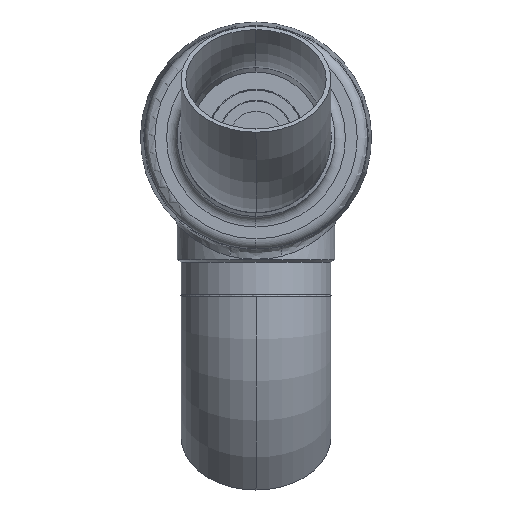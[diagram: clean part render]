
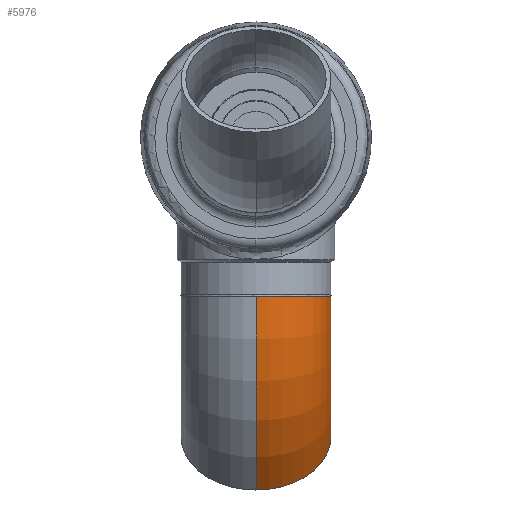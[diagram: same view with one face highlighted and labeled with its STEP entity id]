
A CAD part, front view. The second image highlights one B-rep face of the part: STEP entity #5976.
In plain terms, the highlighted toroidal (fillet/blend) face has major radius 152 mm and minor radius 57.15 mm.
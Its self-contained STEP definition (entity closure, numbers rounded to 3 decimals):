
#2989 = EDGE_CURVE ( 'NONE', #5506, #12347, #4361, .T. ) ;
#3345 = ORIENTED_EDGE ( 'NONE', *, *, #2989, .T. ) ;
#3852 = ORIENTED_EDGE ( 'NONE', *, *, #12296, .T. ) ;
#4357 = EDGE_CURVE ( 'NONE', #13622, #5217, #11543, .T. ) ;
#4361 = CIRCLE ( 'NONE', #4362, 57.15 ) ;
#4362 = AXIS2_PLACEMENT_3D ( 'NONE', #4363, #4364, #4365 ) ;
#4363 = CARTESIAN_POINT ( 'NONE',  ( 0., 0., 0. ) ) ;
#4364 = DIRECTION ( 'NONE',  ( 1., 0., 0. ) ) ;
#4365 = DIRECTION ( 'NONE',  ( 0., 0., -1. ) ) ;
#4420 = CIRCLE ( 'NONE', #4421, 94.85 ) ;
#4421 = AXIS2_PLACEMENT_3D ( 'NONE', #4422, #4423, #4424 ) ;
#4422 = CARTESIAN_POINT ( 'NONE',  ( 0., -152., 0. ) ) ;
#4423 = DIRECTION ( 'NONE',  ( 0., 0., 1. ) ) ;
#4424 = DIRECTION ( 'NONE',  ( 1., 0., 0. ) ) ;
#4463 = CARTESIAN_POINT ( 'NONE',  ( 0., 57.15, 0. ) ) ;
#4725 = ORIENTED_EDGE ( 'NONE', *, *, #4357, .F. ) ;
#5217 = VERTEX_POINT ( 'NONE', #12733 ) ;
#5237 = ORIENTED_EDGE ( 'NONE', *, *, #12401, .F. ) ;
#5506 = VERTEX_POINT ( 'NONE', #15985 ) ;
#5740 = EDGE_LOOP ( 'NONE', ( #5237, #4725, #3852, #3345 ) ) ;
#5976 = ADVANCED_FACE ( 'NONE', ( #16272 ), #16273, .T. ) ;
#6044 = CIRCLE ( 'NONE', #6045, 209.15 ) ;
#6045 = AXIS2_PLACEMENT_3D ( 'NONE', #6046, #6048, #6049 ) ;
#6046 = CARTESIAN_POINT ( 'NONE',  ( 0., -152., 0. ) ) ;
#6048 = DIRECTION ( 'NONE',  ( 0., 0., 1. ) ) ;
#6049 = DIRECTION ( 'NONE',  ( 1., 0., 0. ) ) ;
#11543 = CIRCLE ( 'NONE', #11544, 57.15 ) ;
#11544 = AXIS2_PLACEMENT_3D ( 'NONE', #11545, #11546, #11547 ) ;
#11545 = CARTESIAN_POINT ( 'NONE',  ( 107.48, -44.52, 0. ) ) ;
#11546 = DIRECTION ( 'NONE',  ( 0.707, -0.707, 0. ) ) ;
#11547 = DIRECTION ( 'NONE',  ( 0., 0., -1. ) ) ;
#11560 = CARTESIAN_POINT ( 'NONE',  ( 67.069, -84.931, 0. ) ) ;
#12296 = EDGE_CURVE ( 'NONE', #13622, #5506, #4420, .T. ) ;
#12347 = VERTEX_POINT ( 'NONE', #4463 ) ;
#12401 = EDGE_CURVE ( 'NONE', #5217, #12347, #6044, .T. ) ;
#12733 = CARTESIAN_POINT ( 'NONE',  ( 147.891, -4.109, 0. ) ) ;
#13622 = VERTEX_POINT ( 'NONE', #11560 ) ;
#15985 = CARTESIAN_POINT ( 'NONE',  ( 0., -57.15, 0. ) ) ;
#16272 = FACE_OUTER_BOUND ( 'NONE', #5740, .T. ) ;
#16273 = TOROIDAL_SURFACE ( 'NONE', #16274, 152., 57.15 ) ;
#16274 = AXIS2_PLACEMENT_3D ( 'NONE', #16275, #16276, #16277 ) ;
#16275 = CARTESIAN_POINT ( 'NONE',  ( 0., -152., 0. ) ) ;
#16276 = DIRECTION ( 'NONE',  ( 0., 0., 1. ) ) ;
#16277 = DIRECTION ( 'NONE',  ( 1., 0., 0. ) ) ;
